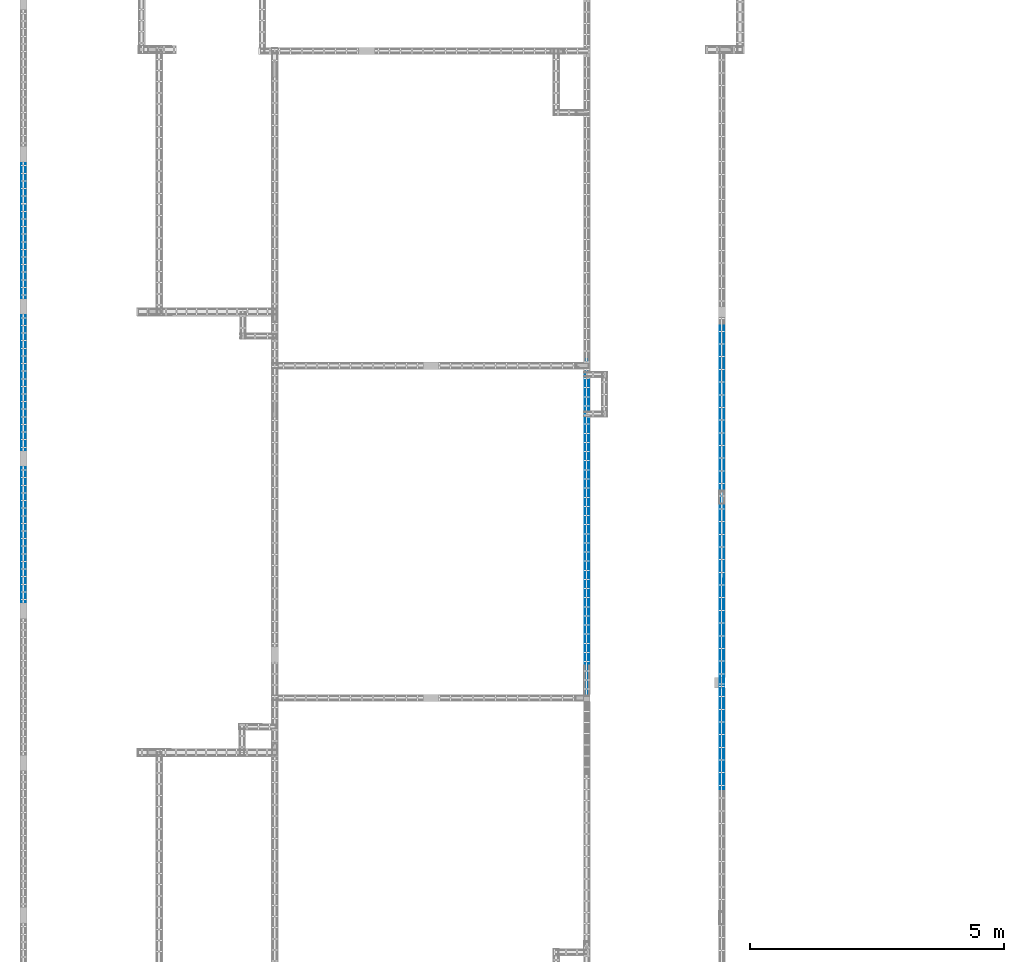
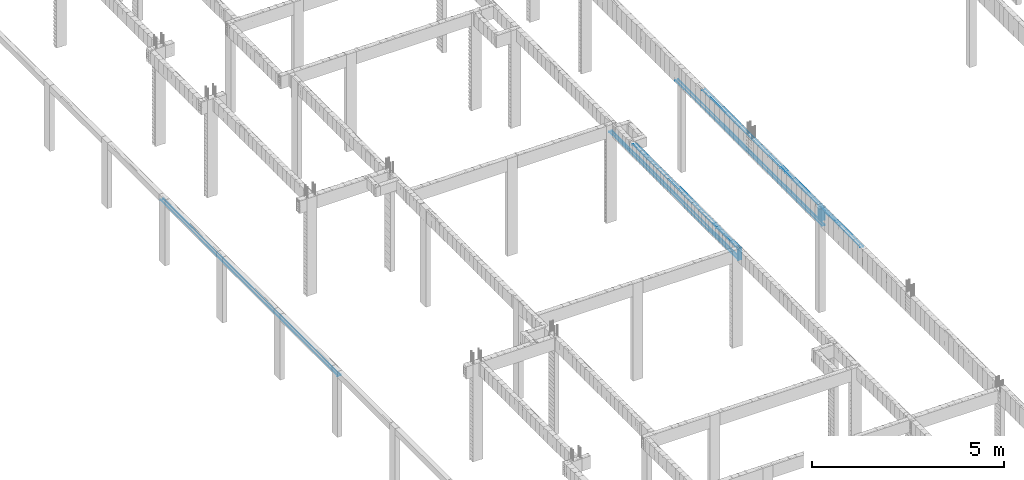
# One storey, part 63 of 236: 16 reinforcing bars.
"""IFC4 building model written with IfcOpenShell, lengths in centimetres."""

import ifcopenshell
import ifcopenshell.guid

model = None  # the IFC model being written
_history = None  # IfcOwnerHistory: only IFC2X3 demands one
_inside = {}  # id of a spatial element -> (the spatial element, [elements in it])
_under = {}  # id of a project, library or spatial element -> (it, [spatial elements below it])
_declared = {}  # id of a project -> (the project, [libraries it declares])
_typed = {}  # id of a type object -> (the type object, [elements of that type])
_made_of = {}  # id of a material, layer set ... -> (it, [elements and type objects made of it])


def new_model(schema):
    """Start an empty IFC model of exactly this schema.

    Asked for "IFC4X3", IfcOpenShell would pick the latest addendum, in which some entities
    have other attributes; the version numbers below select the first issue.
    IFC2X3 requires an IfcOwnerHistory on every rooted entity: one is made here for all.
    """
    global model, _history
    if schema == "IFC4X3":
        model = ifcopenshell.file(schema_version=(4, 3, 0, 0))
    else:
        model = ifcopenshell.file(schema=schema)
    _inside.clear()
    _under.clear()
    _declared.clear()
    _typed.clear()
    _made_of.clear()
    _history = None
    if model.schema == "IFC2X3":
        org = make("IfcOrganization", Name="unknown")
        user = make(
            "IfcPersonAndOrganization",
            ThePerson=make("IfcPerson", FamilyName="unknown"),
            TheOrganization=org,
        )
        app = make(
            "IfcApplication",
            ApplicationDeveloper=org,
            Version="unknown",
            ApplicationFullName="unknown",
            ApplicationIdentifier="unknown",
        )
        _history = make(
            "IfcOwnerHistory",
            OwningUser=user,
            OwningApplication=app,
            ChangeAction="ADDED",
            CreationDate=0,
        )
    return model


def make(cls, **values):
    """One entity of the class cls with the attributes given. An attribute that is None is left unset."""
    return model.create_entity(
        cls, **{name: value for name, value in values.items() if value is not None}
    )


def entity(cls, *values):
    """Any entity or typed value of the class cls, its attributes in the order of the schema. None: left unset."""
    e = model.create_entity(cls)
    for i, value in enumerate(values):
        if value is not None:
            e[i] = value
    return e


def rooted(cls, **values):
    """An entity with a GlobalId (a new one), such as an element, a storey or a relation."""
    return make(cls, GlobalId=ifcopenshell.guid.new(), OwnerHistory=_history, **values)


def si_unit(unit_type, name, prefix=None):
    """IfcSIUnit, for example si_unit("LENGTHUNIT", "METRE", prefix="MILLI")."""
    return make("IfcSIUnit", UnitType=unit_type, Prefix=prefix, Name=name)


def derived_unit(unit_type, elements):
    """IfcDerivedUnit: a product of units, each with its exponent."""
    return make(
        "IfcDerivedUnit",
        Elements=[
            make("IfcDerivedUnitElement", Unit=unit, Exponent=power)
            for unit, power in elements
        ],
        UnitType=unit_type,
    )


def assignment(units):
    """IfcUnitAssignment: the units of a project."""
    return None if units is None else make("IfcUnitAssignment", Units=units)


def point(xyz):
    """IfcCartesianPoint."""
    return None if xyz is None else make("IfcCartesianPoint", Coordinates=xyz)


def direction(xyz):
    """IfcDirection."""
    return None if xyz is None else make("IfcDirection", DirectionRatios=xyz)


def frame(location, z_axis=None, x_axis=None):
    """IfcAxis2Placement3D, a coordinate frame: its origin and axes. An axis left out is left unset."""
    return make(
        "IfcAxis2Placement3D",
        Location=point(location),
        Axis=direction(z_axis),
        RefDirection=direction(x_axis),
    )


def origin_with_axes():
    """The frame at (0, 0, 0) with the z axis (0, 0, 1) and the x axis (1, 0, 0) written out."""
    return frame((0.0, 0.0, 0.0), z_axis=(0.0, 0.0, 1.0), x_axis=(1.0, 0.0, 0.0))


def place(relative_to, where):
    """IfcLocalPlacement: puts the frame where relative to a parent placement (None: the world)."""
    return make(
        "IfcLocalPlacement", PlacementRelTo=relative_to, RelativePlacement=where
    )


def context(
    kind, dimensions, precision=None, world=None, true_north=None, identifier=None
):
    """IfcGeometricRepresentationContext, for example the 3D "Model" context."""
    return make(
        "IfcGeometricRepresentationContext",
        ContextIdentifier=identifier,
        ContextType=kind,
        CoordinateSpaceDimension=dimensions,
        Precision=precision,
        WorldCoordinateSystem=world,
        TrueNorth=true_north,
    )


def project(units=None, contexts=None):
    """IfcProject with its units and contexts."""
    return rooted(
        "IfcProject",
        Name="project",
        RepresentationContexts=contexts,
        UnitsInContext=assignment(units),
    )


def spatial(cls, under=None, at=None, **own):
    """A site, building, storey or space (cls), placed at a placement, below another one or the project."""
    s = rooted(cls, ObjectPlacement=at, **own)
    if under is not None:
        _under.setdefault(under.id(), (under, []))[1].append(s)
    return s


def shape(context_of_items, identifier, shape_type, items):
    """IfcShapeRepresentation: the items that make up one representation, for example the "Body"."""
    return make(
        "IfcShapeRepresentation",
        ContextOfItems=context_of_items,
        RepresentationIdentifier=identifier,
        RepresentationType=shape_type,
        Items=items,
    )


def made_of(thing, what):
    """Note that an element or type object is made of a material, layer set ...; save() writes the relation."""
    if what is not None:
        _made_of.setdefault(what.id(), (what, []))[1].append(thing)
    return thing


def element(
    cls,
    number,
    at=None,
    inside=None,
    cuts=None,
    type_object=None,
    material=None,
    context=None,
    identifier="Body",
    shape_type=None,
    held_by="IfcProductDefinitionShape",
    body=None,
    shapes=None,
    **own,
):
    """One element of the class cls, such as IfcWall. Its Tag is "e" and its number.

    at: its placement. inside: the storey or other place that contains it. cuts: it is an
    opening in that element (IfcRelVoidsElement). A single representation is given by context,
    identifier, shape_type and body (its items); several are given by shapes. held_by: the class
    of the entity that holds the representations. save() writes the other relations.
    """
    e = rooted(cls, Tag="e%d" % number, ObjectPlacement=at, **own)
    if body is not None:
        shapes = [shape(context, identifier, shape_type, body)]
    if shapes is not None:
        e.Representation = make(held_by, Representations=shapes)
    if inside is not None:
        _inside.setdefault(inside.id(), (inside, []))[1].append(e)
    if cuts is not None:
        rooted(
            "IfcRelVoidsElement", RelatingBuildingElement=cuts, RelatedOpeningElement=e
        )
    if type_object is not None:
        _typed.setdefault(type_object.id(), (type_object, []))[1].append(e)
    return made_of(e, material)


def aggregate(whole, parts):
    """IfcRelAggregates: a whole, such as a stair, and the parts it consists of."""
    return rooted("IfcRelAggregates", RelatingObject=whole, RelatedObjects=parts)


def save(model, path):
    """Write the relations noted so far, then the file.

    IfcRelAggregates (storeys below a building ...), IfcRelContainedInSpatialStructure (elements
    in a storey), IfcRelDefinesByType, IfcRelAssociatesMaterial and IfcRelDeclares: one each for
    every whole, place, type object, material and project.
    """
    for whole, parts in _under.values():
        aggregate(whole, parts)
    for where, things in _inside.values():
        rooted(
            "IfcRelContainedInSpatialStructure",
            RelatedElements=things,
            RelatingStructure=where,
        )
    for kind, things in _typed.values():
        rooted("IfcRelDefinesByType", RelatedObjects=things, RelatingType=kind)
    for what, things in _made_of.values():
        rooted("IfcRelAssociatesMaterial", RelatedObjects=things, RelatingMaterial=what)
    for by, libraries in _declared.values():
        rooted("IfcRelDeclares", RelatingContext=by, RelatedDefinitions=libraries)
    model.write(path)


model = new_model("IFC4")

# Units and contexts
model_context = context("Model", 3, precision=1e-05, world=origin_with_axes(), identifier="Body")
ifc_project = project(units=[si_unit("LENGTHUNIT", "METRE", prefix="CENTI"), si_unit("VOLUMEUNIT", "CUBIC_METRE"), si_unit("AREAUNIT", "SQUARE_METRE"), si_unit("POWERUNIT", "WATT"), si_unit("LUMINOUSFLUXUNIT", "LUMEN"), si_unit("ELECTRICCURRENTUNIT", "AMPERE"), si_unit("PRESSUREUNIT", "PASCAL", prefix="KILO"), si_unit("MASSUNIT", "GRAM", prefix="KILO"), si_unit("PLANEANGLEUNIT", "RADIAN"), derived_unit("VOLUMETRICFLOWRATEUNIT", [(si_unit("LENGTHUNIT", "METRE"), 3), (si_unit("TIMEUNIT", "SECOND"), -1)])], contexts=[model_context])

# Site, building, storey
site_placement = place(None, frame((-4000.0, 0.0, 0.0), z_axis=(0.0, 0.0, 1.0), x_axis=(1.0, 0.0, 0.0)))
site = spatial("IfcSite", under=ifc_project, at=site_placement, Name="PADRÃO")
building_placement = place(site_placement, frame((0.0, 0.0, -14.0)))
building = spatial("IfcBuilding", under=site, at=building_placement, Name="CRECHE PRÉ-ESCOLA TIPO 2")
placement_1 = place(building_placement, origin_with_axes())
placement_2 = place(placement_1, frame((0.0, 0.0, 30.0), z_axis=(0.0, 0.0, 1.0), x_axis=(1.0, 0.0, 0.0)))
storey_placement = place(placement_2, frame((0.0, 0.0, 310.0), z_axis=(0.0, 0.0, 1.0), x_axis=(1.0, 0.0, 0.0)))
storey = spatial("IfcBuildingStorey", under=building, at=storey_placement, Name="TERREO", CompositionType="ELEMENT", Elevation=326.0)

# Reinforcing bars
for number, where, z_axis, x_axis, name in (
    (1, (1114.845, 2253.99707010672, -21.875), (0.0, 0.0, 1.0), (1.0, 0.0, 0.0), "V278 - Longitudinal inferior"),
    (2, (1122.595, 2253.99707010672, -21.875), (0.0, 0.0, 1.0), (1.0, 0.0, 0.0), "V278 - Longitudinal inferior"),
):
    element("IfcReinforcingBar", number, at=place(storey_placement, frame(where, z_axis=z_axis, x_axis=x_axis)), inside=storey, Name=name, BarLength=0.0, CrossSectionArea=0.000122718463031, NominalDiameter=1.25, PredefinedType="MAIN", context=model_context, shape_type="AdvancedSweptSolid", body=[
        entity("IfcSweptDiskSolid", entity("IfcCompositeCurve", [entity("IfcCompositeCurveSegment", "CONTINUOUS", True, entity("IfcPolyline", [entity("IfcCartesianPoint", [0.0, -335.872070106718, 0.0]), entity("IfcCartesianPoint", [0.0, -335.872070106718, -15.0])])), entity("IfcCompositeCurveSegment", "CONTINUOUS", True, entity("IfcPolyline", [entity("IfcCartesianPoint", [0.0, -335.872070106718, -15.0]), entity("IfcCartesianPoint", [0.0, 336.502929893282, -15.0])]))], False), 0.625),
    ])
for number, where, z_axis, x_axis, name in (
    (3, (1122.82, 2248.75, -2.5), (0.0, 0.0, 1.0), (1.0, 0.0, 0.0), "V278 - Longitudinal superior"),
    (4, (1114.62, 2248.75, -2.5), (0.0, 0.0, 1.0), (1.0, 0.0, 0.0), "V278 - Longitudinal superior"),
):
    element("IfcReinforcingBar", number, at=place(storey_placement, frame(where, z_axis=z_axis, x_axis=x_axis)), inside=storey, Name=name, BarLength=0.0, CrossSectionArea=5.0265482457e-05, NominalDiameter=0.8, PredefinedType="MAIN", context=model_context, shape_type="AdvancedSweptSolid", body=[
        entity("IfcSweptDiskSolid", entity("IfcCompositeCurve", [entity("IfcCompositeCurveSegment", "CONTINUOUS", True, entity("IfcPolyline", [entity("IfcCartesianPoint", [0.0, -219.123577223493, -0.4]), entity("IfcCartesianPoint", [0.0, 219.123577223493, -0.4])]))], False), 0.4),
    ])
for number, where, z_axis, x_axis, name in (
    (5, (1114.845, 1984.99707010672, -2.49414021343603), (0.0, 0.0, 1.0), (1.0, 0.0, 0.0), "V278 - Longitudinal superior"),
    (6, (1122.595, 1984.99707010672, -2.49414021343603), (0.0, 0.0, 1.0), (1.0, 0.0, 0.0), "V278 - Longitudinal superior"),
):
    element("IfcReinforcingBar", number, at=place(storey_placement, frame(where, z_axis=z_axis, x_axis=x_axis)), inside=storey, Name=name, BarLength=0.0, CrossSectionArea=0.000122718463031, NominalDiameter=1.25, PredefinedType="MAIN", context=model_context, shape_type="AdvancedSweptSolid", body=[
        entity("IfcSweptDiskSolid", entity("IfcCompositeCurve", [entity("IfcCompositeCurveSegment", "CONTINUOUS", True, entity("IfcPolyline", [entity("IfcCartesianPoint", [0.0, -66.872070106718, -30.0366271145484]), entity("IfcCartesianPoint", [0.0, -66.872070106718, -0.630859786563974])])), entity("IfcCompositeCurveSegment", "CONTINUOUS", True, entity("IfcPolyline", [entity("IfcCartesianPoint", [0.0, -66.872070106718, -0.630859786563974]), entity("IfcCartesianPoint", [0.0, 67.502929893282, -0.630859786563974])]))], False), 0.625),
    ])
for number, where, z_axis, x_axis, name in (
    (7, (1380.965, 1851.50292989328, 17.505859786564), (0.0, 0.0, 1.0), (1.0, 0.0, 0.0), "V283 - Longitudinal superior"),
    (8, (1388.715, 1851.50292989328, 17.505859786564), (0.0, 0.0, 1.0), (1.0, 0.0, 0.0), "V283 - Longitudinal superior"),
):
    element("IfcReinforcingBar", number, at=place(storey_placement, frame(where, z_axis=z_axis, x_axis=x_axis)), inside=storey, Name=name, BarLength=0.0, CrossSectionArea=0.000122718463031, NominalDiameter=1.25, PredefinedType="MAIN", context=model_context, shape_type="AdvancedSweptSolid", body=[
        entity("IfcSweptDiskSolid", entity("IfcCompositeCurve", [entity("IfcCompositeCurveSegment", "CONTINUOUS", True, entity("IfcPolyline", [entity("IfcCartesianPoint", [0.0, -109.002929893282, -0.630859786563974]), entity("IfcCartesianPoint", [0.0, 108.372070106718, -0.630859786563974])])), entity("IfcCompositeCurveSegment", "CONTINUOUS", True, entity("IfcPolyline", [entity("IfcCartesianPoint", [0.0, 108.372070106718, -0.630859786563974]), entity("IfcCartesianPoint", [0.0, 108.372070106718, -42.3274849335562])]))], False), 0.625),
    ])
for number, where, z_axis, x_axis, name in (
    (9, (1380.84, 2325.6836500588, -36.5), (0.0, 0.0, 1.0), (1.0, 0.0, 0.0), "V284 - Longitudinal inferior"),
    (10, (1388.84, 2325.6836500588, -36.5), (0.0, 0.0, 1.0), (1.0, 0.0, 0.0), "V284 - Longitudinal inferior"),
):
    element("IfcReinforcingBar", number, at=place(storey_placement, frame(where, z_axis=z_axis, x_axis=x_axis)), inside=storey, Name=name, BarLength=0.0, CrossSectionArea=7.853981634e-05, NominalDiameter=1.0, PredefinedType="MAIN", context=model_context, shape_type="AdvancedSweptSolid", body=[
        entity("IfcSweptDiskSolid", entity("IfcCompositeCurve", [entity("IfcCompositeCurveSegment", "CONTINUOUS", True, entity("IfcPolyline", [entity("IfcCartesianPoint", [0.0, -381.183650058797, -0.5]), entity("IfcCartesianPoint", [0.0, 381.183650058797, -0.5])]))], False), 0.5),
    ])
for number, where, z_axis, x_axis, name in (
    (11, (1380.965, 2050.99707010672, 17.505859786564), (0.0, 0.0, 1.0), (1.0, 0.0, 0.0), "V284 - Longitudinal superior"),
    (12, (1388.715, 2050.99707010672, 17.505859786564), (0.0, 0.0, 1.0), (1.0, 0.0, 0.0), "V284 - Longitudinal superior"),
):
    element("IfcReinforcingBar", number, at=place(storey_placement, frame(where, z_axis=z_axis, x_axis=x_axis)), inside=storey, Name=name, BarLength=0.0, CrossSectionArea=0.000122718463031, NominalDiameter=1.25, PredefinedType="MAIN", context=model_context, shape_type="AdvancedSweptSolid", body=[
        entity("IfcSweptDiskSolid", entity("IfcCompositeCurve", [entity("IfcCompositeCurveSegment", "CONTINUOUS", True, entity("IfcPolyline", [entity("IfcCartesianPoint", [0.0, -105.872070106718, -37.7980427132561]), entity("IfcCartesianPoint", [0.0, -105.872070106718, -0.630859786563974])])), entity("IfcCompositeCurveSegment", "CONTINUOUS", True, entity("IfcPolyline", [entity("IfcCartesianPoint", [0.0, -105.872070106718, -0.630859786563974]), entity("IfcCartesianPoint", [0.0, 106.502929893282, -0.630859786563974])]))], False), 0.625),
    ])
for number, where, z_axis, x_axis, name in (
    (13, (1388.94, 2350.505, 17.5), (0.0, 0.0, 1.0), (1.0, 0.0, 0.0), "V284 - Longitudinal superior"),
    (14, (1380.74, 2350.505, 17.5), (0.0, 0.0, 1.0), (1.0, 0.0, 0.0), "V284 - Longitudinal superior"),
):
    element("IfcReinforcingBar", number, at=place(storey_placement, frame(where, z_axis=z_axis, x_axis=x_axis)), inside=storey, Name=name, BarLength=0.0, CrossSectionArea=5.0265482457e-05, NominalDiameter=0.8, PredefinedType="MAIN", context=model_context, shape_type="AdvancedSweptSolid", body=[
        entity("IfcSweptDiskSolid", entity("IfcCompositeCurve", [entity("IfcCompositeCurveSegment", "CONTINUOUS", True, entity("IfcPolyline", [entity("IfcCartesianPoint", [0.0, -215.878577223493, -0.4]), entity("IfcCartesianPoint", [0.0, 215.878577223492, -0.4])]))], False), 0.4),
    ])
for number, where, z_axis, x_axis, name in (
    (15, (4.4, 2544.5, -116.7), (0.0, 0.0, 1.0), (1.0, 0.0, 0.0), "V324 - Longitudinal inferior"),
    (16, (12.6, 2544.5, -116.7), (0.0, 0.0, 1.0), (1.0, 0.0, 0.0), "V324 - Longitudinal inferior"),
):
    element("IfcReinforcingBar", number, at=place(storey_placement, frame(where, z_axis=z_axis, x_axis=x_axis)), inside=storey, Name=name, BarLength=0.0, CrossSectionArea=5.0265482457e-05, NominalDiameter=0.8, PredefinedType="MAIN", context=model_context, shape_type="AdvancedSweptSolid", body=[
        entity("IfcSweptDiskSolid", entity("IfcCompositeCurve", [entity("IfcCompositeCurveSegment", "CONTINUOUS", True, entity("IfcPolyline", [entity("IfcCartesianPoint", [0.0, -461.685840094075, -0.4]), entity("IfcCartesianPoint", [0.0, 461.685840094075, -0.4])]))], False), 0.4),
    ])

save(model, "model.ifc")
